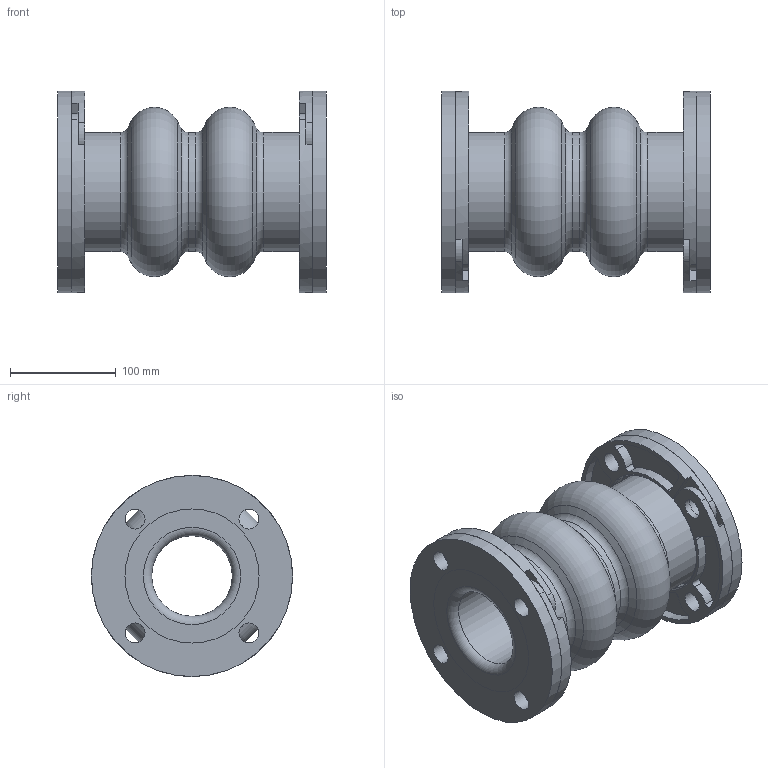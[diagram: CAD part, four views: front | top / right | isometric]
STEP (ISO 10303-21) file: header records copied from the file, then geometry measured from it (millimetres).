
FILE_DESCRIPTION(/* description */ (''),/* implementation_level */ '2;1');
FILE_NAME(/* name */ 'C:\001_Work\Designs\Mercer2014\702 3IDx10FF.stp',/* time_stamp */ '2016-04-10T14:31:47-04:00',/* author */ ('rramoutar'),/* organization */ ('Mason Industries Inc.'),/* preprocessor_version */ 'ST-DEVELOPER v15.6',/* originating_system */ 'Autodesk Inventor 2015',/* authorisation */ '');
FILE_SCHEMA (('CONFIG_CONTROL_DESIGN'));
Length unit declared in the file: inch
Products named in the file (1): 702 3IDx10FF
Bounding box: 254 x 190.5 x 190.5 mm (x, y, z)
Volume: 2552130 mm3; surface area: 415508.1 mm2
Topology: 5 solids, 5 shells, 192 faces, 490 edges, 320 vertices
Faces by surface type: cylinder 108, plane 54, torus 22, cone 8
Full cylindrical faces by diameter (mm): 19.05 x20, 76.2 x3, 112.712 x3, 190.5 x2
Entity records: 6104 total; most frequent: CARTESIAN_POINT 1113, DIRECTION 1066, ORIENTED_EDGE 872, AXIS2_PLACEMENT_3D 453, EDGE_CURVE 436, VERTEX_POINT 316, EDGE_LOOP 296, CIRCLE 260
